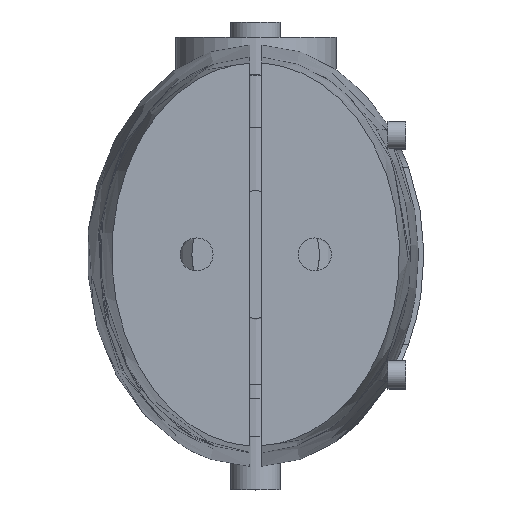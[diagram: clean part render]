
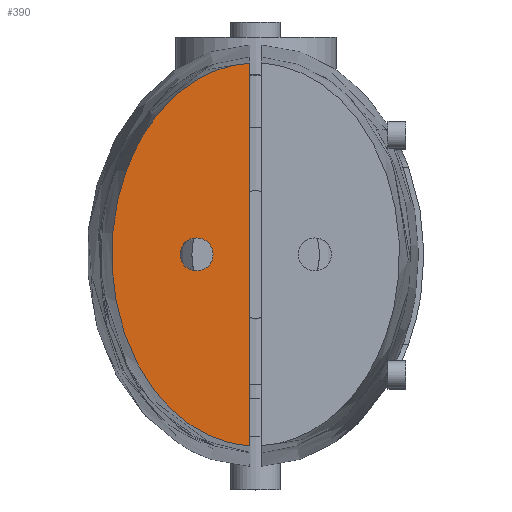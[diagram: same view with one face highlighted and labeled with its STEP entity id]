
A CAD part, top view. The second image highlights one B-rep face of the part: STEP entity #390.
In plain terms, the highlighted planar face has unit normal (0, 0, 1).
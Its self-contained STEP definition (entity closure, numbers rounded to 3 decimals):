
#86 = VERTEX_POINT('',#87);
#87 = CARTESIAN_POINT('',(-0.25,8.092,38.2));
#191 = VERTEX_POINT('',#192);
#192 = CARTESIAN_POINT('',(-0.25,-8.092,38.2));
#275 = EDGE_CURVE('',#86,#191,#276,.T.);
#276 = B_SPLINE_CURVE_WITH_KNOTS('',14,(#277,#278,#279,#280,#281,#282,
    #283,#284,#285,#286,#287,#288,#289,#290,#291),.UNSPECIFIED.,.T.,.F.,
  (15,15),(0.,1.),.PIECEWISE_BEZIER_KNOTS.);
#277 = CARTESIAN_POINT('',(0.,8.099,38.2));
#278 = CARTESIAN_POINT('',(-2.733,8.099,38.2));
#279 = CARTESIAN_POINT('',(-5.466,6.342,38.2));
#280 = CARTESIAN_POINT('',(-7.508,2.829,38.2));
#281 = CARTESIAN_POINT('',(-8.166,-1.916,38.2));
#282 = CARTESIAN_POINT('',(-6.997,-6.842,38.2));
#283 = CARTESIAN_POINT('',(-4.055,-10.602,38.2));
#284 = CARTESIAN_POINT('',(0.,-12.018,38.2));
#285 = CARTESIAN_POINT('',(4.055,-10.602,38.2));
#286 = CARTESIAN_POINT('',(6.997,-6.842,38.2));
#287 = CARTESIAN_POINT('',(8.166,-1.916,38.2));
#288 = CARTESIAN_POINT('',(7.508,2.829,38.2));
#289 = CARTESIAN_POINT('',(5.466,6.342,38.2));
#290 = CARTESIAN_POINT('',(2.733,8.099,38.2));
#291 = CARTESIAN_POINT('',(0.,8.099,38.2));
#379 = EDGE_CURVE('',#86,#191,#380,.T.);
#380 = LINE('',#381,#382);
#381 = CARTESIAN_POINT('',(-0.25,-13.451,38.2));
#382 = VECTOR('',#383,1.);
#383 = DIRECTION('',(0.,-1.,0.));
#390 = ADVANCED_FACE('',(#391,#395),#406,.F.);
#391 = FACE_BOUND('',#392,.F.);
#392 = EDGE_LOOP('',(#393,#394));
#393 = ORIENTED_EDGE('',*,*,#275,.F.);
#394 = ORIENTED_EDGE('',*,*,#379,.T.);
#395 = FACE_BOUND('',#396,.F.);
#396 = EDGE_LOOP('',(#397));
#397 = ORIENTED_EDGE('',*,*,#398,.T.);
#398 = EDGE_CURVE('',#399,#399,#401,.T.);
#399 = VERTEX_POINT('',#400);
#400 = CARTESIAN_POINT('',(-1.8,0.,38.2));
#401 = CIRCLE('',#402,0.7);
#402 = AXIS2_PLACEMENT_3D('',#403,#404,#405);
#403 = CARTESIAN_POINT('',(-2.5,0.,38.2));
#404 = DIRECTION('',(0.,0.,1.));
#405 = DIRECTION('',(1.,0.,-0.));
#406 = PLANE('',#407);
#407 = AXIS2_PLACEMENT_3D('',#408,#409,#410);
#408 = CARTESIAN_POINT('',(0.,8.099,38.2));
#409 = DIRECTION('',(0.,0.,-1.));
#410 = DIRECTION('',(0.,-1.,-0.));
